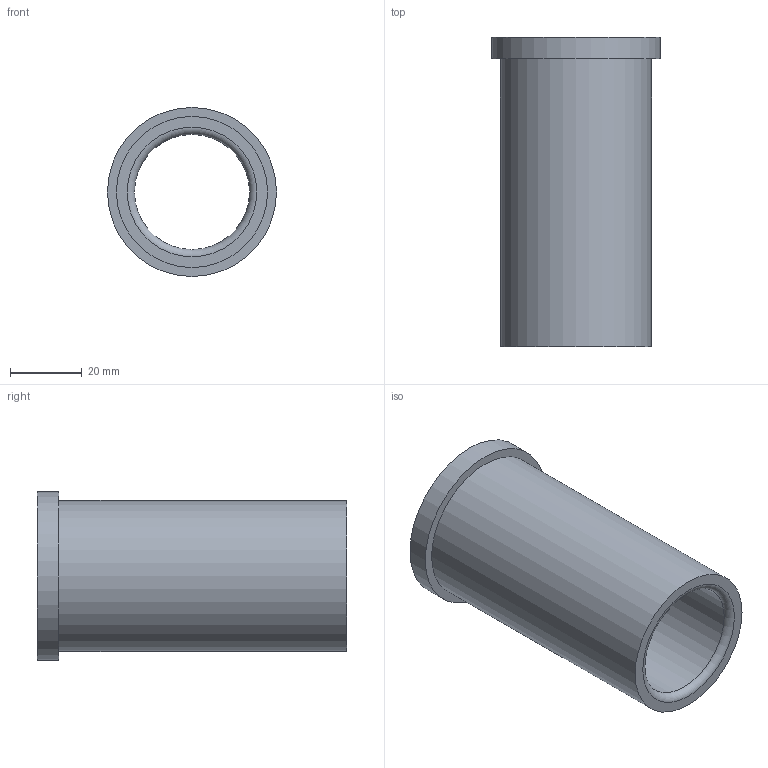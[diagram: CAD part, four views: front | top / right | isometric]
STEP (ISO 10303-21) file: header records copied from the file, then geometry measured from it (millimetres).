
FILE_DESCRIPTION(/* description */ ('STEP AP214'),/* implementation_level */ '2;1');
FILE_NAME(/* name */ '03_12_17859',/* time_stamp */ '2023-06-15T11:35:41+02:00',/* author */ ('License CC BY-ND 4.0'),/* organization */ ('CADENAS'),/* preprocessor_version */ 'ST-DEVELOPER v19.3',/* originating_system */ 'PARTsolutions',/* authorisation */ ' ');
FILE_SCHEMA (('AUTOMOTIVE_DESIGN {1 0 10303 214 3 1 1}'));
Length unit declared in the file: millimetre
Products named in the file (1): VA_Bushing_17859
Bounding box: 47 x 86 x 47 mm (x, y, z)
Volume: 51377.1 mm3; surface area: 21810.5 mm2
Topology: 1 solids, 1 shells, 10 faces, 16 edges, 10 vertices
Faces by surface type: cylinder 4, plane 4, torus 2
Full cylindrical faces by diameter (mm): 32 x1, 32.6 x1, 42 x1, 47 x1
Entity records: 302 total; most frequent: DIRECTION 42, CARTESIAN_POINT 31, AXIS2_PLACEMENT_3D 21, ORIENTED_EDGE 20, EDGE_LOOP 20, FACE_BOUND 20, EDGE_CURVE 10, VERTEX_POINT 10
